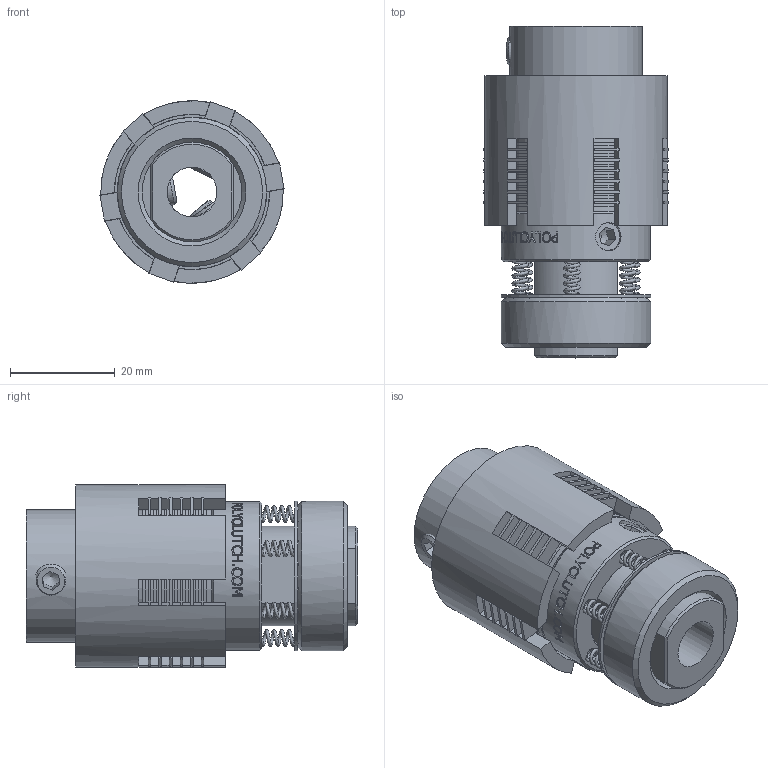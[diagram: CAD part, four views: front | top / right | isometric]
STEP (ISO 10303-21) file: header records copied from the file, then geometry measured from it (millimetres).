
FILE_DESCRIPTION((''),'2;1');
FILE_NAME('P:\Public\3-D CLUTCH ASSEMBLY FILES\EAS24\EAS24.stp','2013-01-21T14:07:55',('TodLob'),(''),'Autodesk Inventor 2011','Autodesk Inventor 2011','');
FILE_SCHEMA(('AUTOMOTIVE_DESIGN { 1 0 10303 214 1 1 1 1 }'));
Length unit declared in the file: inch
Products named in the file (13): EAS24; S2411-6; S2417-6-A; S2438; S2421; E2413; S2415; S2419; E2409; S2414A; S2440; S2439; Hexagon Socket Set Screw - Flat Point - Inch 1/4-28 UNF x 0.38
Assembly tree (41 placements, depth 2):
  EAS24
    S2411-6
    S2417-6-A
    S2438
    S2421  x12
    E2413  x6
    S2415  x6
    S2419
    E2409
    S2414A  x6
    S2440
    S2439
    Hexagon Socket Set Screw - Flat Point - Inch 1/4-28 UNF x 0.38  x4
Bounding box: 35.25 x 63.5 x 34.92 mm (x, y, z)
Volume: 37109.3 mm3; surface area: 41164.4 mm2
Topology: 41 solids, 41 shells, 895 faces, 2299 edges, 1513 vertices
Faces by surface type: plane 574, cylinder 154, bspline 106, cone 43, sphere 18
Full cylindrical faces by diameter (mm): 2.439 x6, 5.41 x2, 5.613 x2, 6.35 x4, 9.525 x2, 15.9 x1, 19.05 x2, 19.126 x12, 20.625 x6, 25.4 x2, 28.575 x22, 29.718 x1, 34.925 x1
Entity records: 45539 total; most frequent: CARTESIAN_POINT 30617, ORIENTED_EDGE 3050, DIRECTION 2664, EDGE_CURVE 1525, VERTEX_POINT 1042, AXIS2_PLACEMENT_3D 908, VECTOR 848, LINE 848
